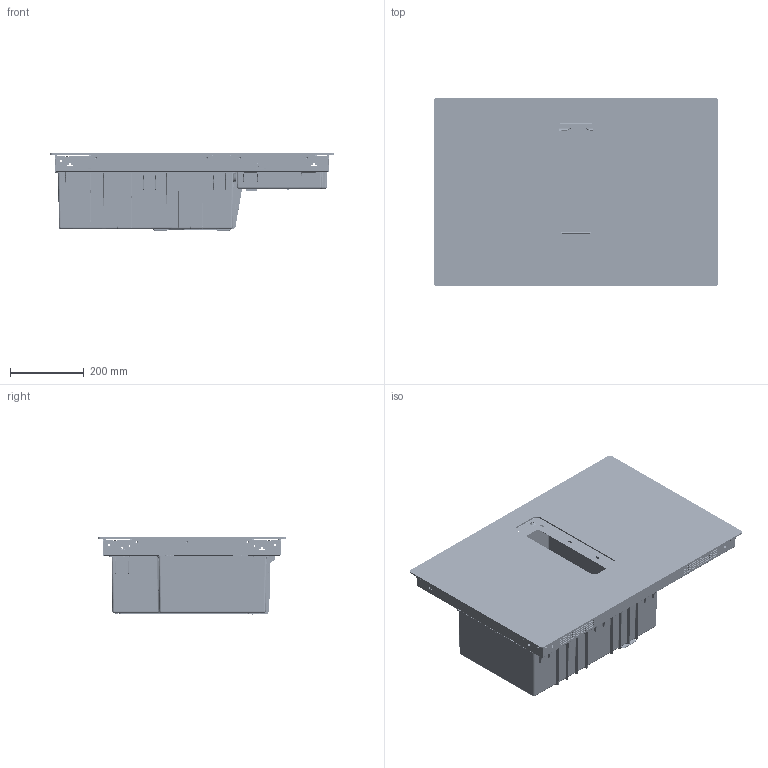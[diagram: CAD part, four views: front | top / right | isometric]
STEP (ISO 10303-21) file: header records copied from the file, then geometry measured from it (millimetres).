
FILE_DESCRIPTION(('CATIA V5 STEP','CAx-IF Rec.Pracs.--- Model Styling and Organization---1.4--- 2014-01-23','CAx-IF Rec.Pracs.---Representation and Presentation of Product Manufacturing Information (PMI)---4.0---2014-10-13','CAx-IF Rec.Pracs.---3D Tessellated Data Validation Properties---0.5---2014-09-14'),'2;1');
FILE_NAME('C:\Users\LeyhBjo\OneDrive - Electrolux\Desktop\COMBOshells\ComboLite.stp','2023-11-15T06:39:58+00:00',('none'),('Electrolux'),'CATIA Version 5-6 Release 2016','CATIA V5 STEP AP242','none');
FILE_SCHEMA(('AP242_MANAGED_MODEL_BASED_3D_ENGINEERING_MIM_LF {1 0 10303 442 1 1 4}'));
Products named in the file (40): M0490530; M0517995; M0494311; M0518134; M0518129; M0518129_Duplicated_16; M0442643; M0518129_Duplicated_17; M0517422; M0428332; M0387184; M0168886; M0168886_Duplicated_18; M0168886_Duplicated_19; M0168886_Duplicated_20; M0168886_Duplicated_21; M0168886_Duplicated_22; M0168879; M0168879_Duplicated_23; M0168879_Duplicated_24; M0168879_Duplicated_25; M0168879_Duplicated_26; M0168879_Duplicated_27; M0168885; M0168888; M0168888_Duplicated_28; M0168888_Duplicated_29; M0428333; M0428392; M0544097; M0396213; M0507188; M0634049; M0501027; M0544095; M0503257; M0475866; M0475866_Duplicated_30; M0503259; M0537433
Assembly tree (39 placements, depth 3):
  M0490530
    M0517995
      M0494311
      M0518134
      M0518129
      M0518129_Duplicated_16
      M0442643
      M0518129_Duplicated_17
    M0517422
    M0428332
      M0387184
      M0168886
      M0168886_Duplicated_18
      M0168886_Duplicated_19
      M0168886_Duplicated_20
      M0168886_Duplicated_21
      M0168886_Duplicated_22
      M0168879
      M0168879_Duplicated_23
      M0168879_Duplicated_24
      M0168879_Duplicated_25
      M0168879_Duplicated_26
      M0168879_Duplicated_27
      M0168885
      M0168888
      M0168888_Duplicated_28
      M0168888_Duplicated_29
      M0428333
      M0428392
    M0544097
      M0396213
    M0507188
      M0634049
      M0501027
    M0544095
      M0503257
      M0475866
      M0475866_Duplicated_30
      M0503259
      M0537433
Bounding box: 770 x 510 x 208.7 mm (x, y, z)
Volume: 3828110.2 mm3; surface area: 3139956.1 mm2
Topology: 34 solids, 34 shells, 16300 faces, 41981 edges, 25316 vertices
Faces by surface type: plane 6586, cylinder 5011, bspline 2949, torus 564, sphere 540, cone 528, extrusion 120, revolution 2
Entity records: 657053 total; most frequent: CARTESIAN_POINT 289048, ORIENTED_EDGE 82714, DIRECTION 55775, EDGE_CURVE 41357, VERTEX_POINT 25316, VECTOR 23321, LINE 23201, AXIS2_PLACEMENT_3D 19668
